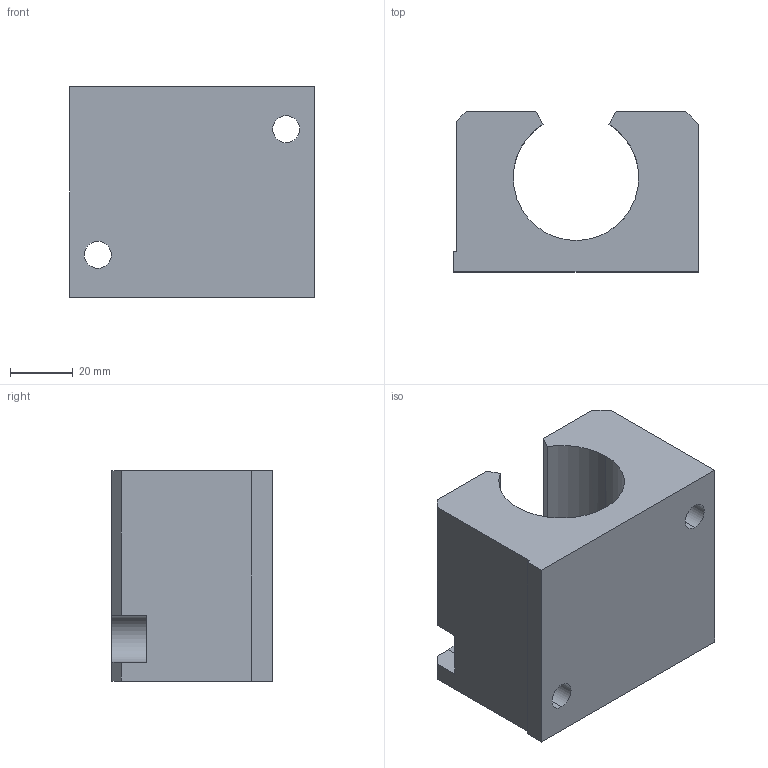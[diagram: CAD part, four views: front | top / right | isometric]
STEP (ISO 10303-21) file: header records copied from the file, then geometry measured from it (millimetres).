
FILE_DESCRIPTION (( 'STEP AP214' ), '1' );
FILE_NAME ('KGO37-25.step', '2020-03-04T13:21:33', ( '' ), ( '' ), 'SwSTEP 2.0', 'SolidWorks 2019', '' );
FILE_SCHEMA (( 'AUTOMOTIVE_DESIGN' ));
Length unit declared in the file: millimetre
Products named in the file (1): KGO37-25
Bounding box: 78 x 51 x 67 mm (x, y, z)
Volume: 164503.9 mm3; surface area: 31402.2 mm2
Topology: 1 solids, 1 shells, 41 faces, 113 edges, 74 vertices
Faces by surface type: plane 22, cylinder 17, cone 2
Entity records: 1545 total; most frequent: CARTESIAN_POINT 343, ORIENTED_EDGE 226, DIRECTION 221, EDGE_CURVE 113, LINE 77, VECTOR 77, VERTEX_POINT 74, AXIS2_PLACEMENT_3D 72
